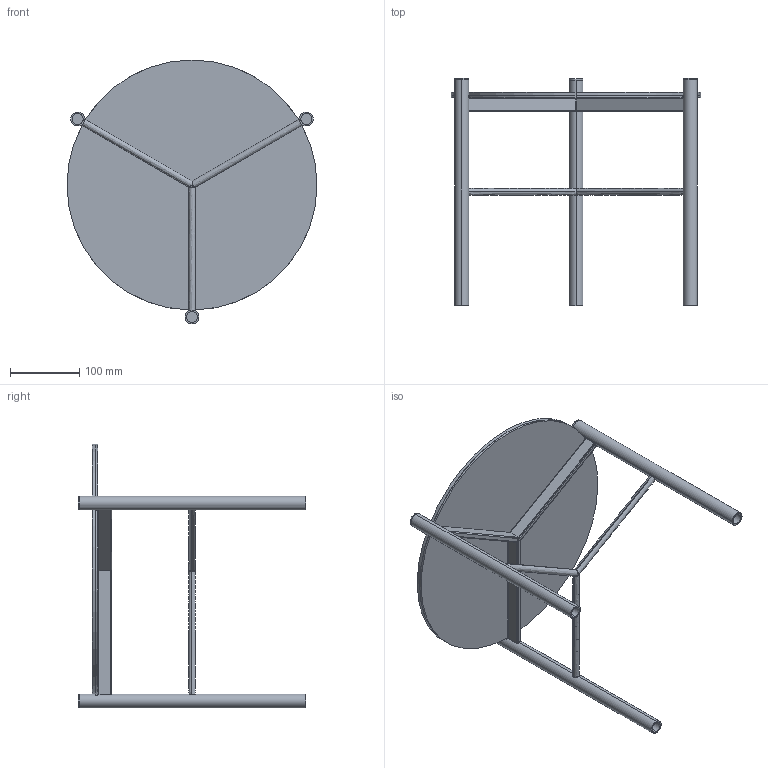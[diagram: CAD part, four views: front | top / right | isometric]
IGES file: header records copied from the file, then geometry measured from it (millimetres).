
Start section: SolidWorks IGES file using analytic representation for surfaces
Global section: file name: Y:\eforma\TECNICO\SOLIDWORKS\E-FORMA\2-TAVOLINI\JACK\02 parts\J401G.IGS; native system: SolidWorks 2022; preprocessor: SolidWorks 2022; author: eforma.tech; date: 240806.133254; units: millimetre
Bounding box: 360 x 327 x 380.07 mm (x, y, z)
Volume: 968878.7 mm3; surface area: 614749.2 mm2
Topology: 14 solids, 14 shells, 125 faces, 293 edges, 194 vertices
Faces by surface type: revolution 73, plane 52
